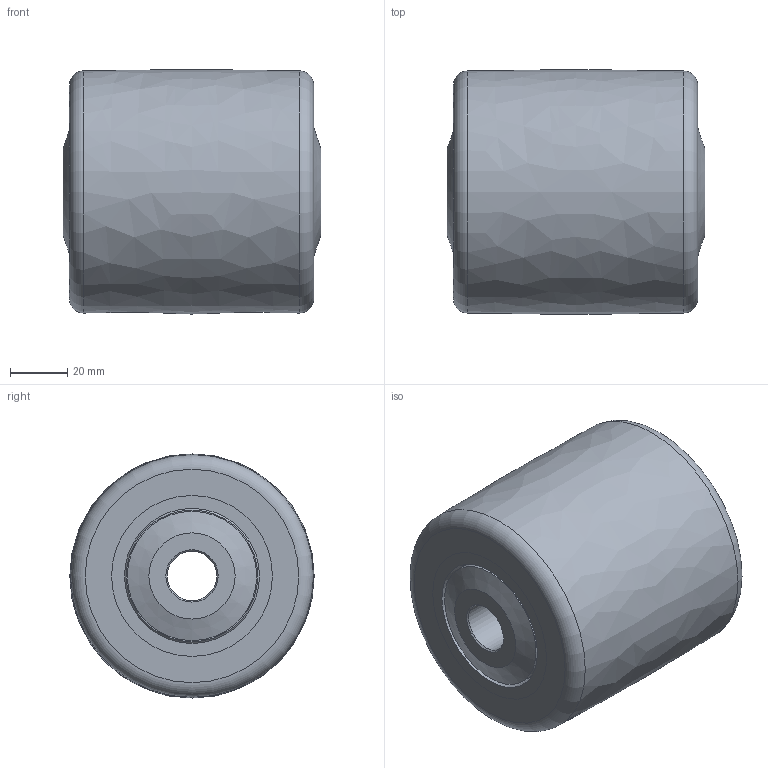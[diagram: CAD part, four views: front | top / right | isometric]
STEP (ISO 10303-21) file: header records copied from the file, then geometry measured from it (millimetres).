
FILE_DESCRIPTION(/* description */ (''),/* implementation_level */ '2;1');
FILE_NAME(/* name */ 'F:/기술영업부/홈페이지관련/2019/롤러도면/HURD-85-09017.step',/* time_stamp */ '2019-07-31T11:27:27+09:00',/* author */ (''),/* organization */ (''),/* preprocessor_version */ 'ST-DEVELOPER v18',/* originating_system */ 'Autodesk Translation Framework v8.2.0.1029',/* authorisation */ '');
FILE_SCHEMA (('AUTOMOTIVE_DESIGN { 1 0 10303 214 3 1 1 }'));
Length unit declared in the file: millimetre
Products named in the file (5): HURD-85-09017; Component1; Component2; Ball Bearing 6005; Roller_Cover D17
Assembly tree (6 placements, depth 2):
  HURD-85-09017
    Component1
    Component2
    Ball Bearing 6005  x2
    Roller_Cover D17  x2
Bounding box: 89.7 x 85 x 84.96 mm (x, y, z)
Volume: 396662.9 mm3; surface area: 106195.5 mm2
Topology: 40 solids, 40 shells, 124 faces, 336 edges, 242 vertices
Faces by surface type: cylinder 37, plane 30, sphere 28, cone 18, torus 10, bspline 1
Full cylindrical faces by diameter (mm): 17.2 x2, 24.8 x2, 25 x2, 30 x2, 32.923 x8, 39.077 x8, 41 x1, 45 x2, 47 x4, 53 x2, 56 x4
Entity records: 2508 total; most frequent: DIRECTION 472, CARTESIAN_POINT 423, ORIENTED_EDGE 340, AXIS2_PLACEMENT_3D 219, EDGE_CURVE 170, VERTEX_POINT 143, CIRCLE 136, EDGE_LOOP 91
